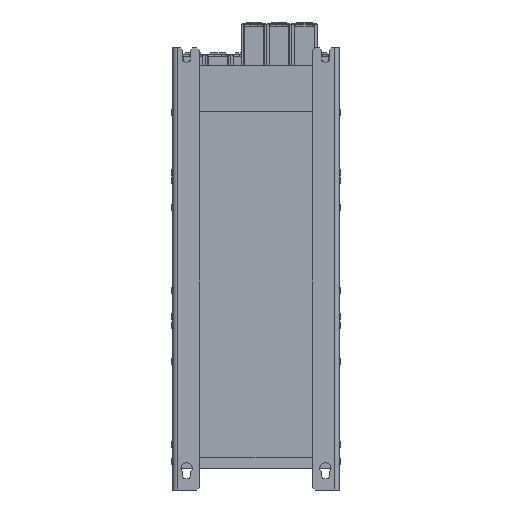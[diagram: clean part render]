
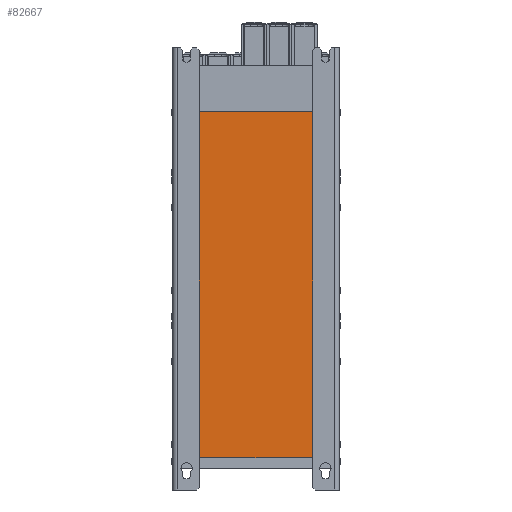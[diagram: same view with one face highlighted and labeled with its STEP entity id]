
A CAD part, front view. The second image highlights one B-rep face of the part: STEP entity #82667.
In plain terms, the highlighted planar face has unit normal (0, -1, 0).
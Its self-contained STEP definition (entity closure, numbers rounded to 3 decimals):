
#236 = ORIENTED_EDGE ( 'NONE', *, *, #4326, .T. ) ;
#2212 = DIRECTION ( 'NONE',  ( 0., 0., 1. ) ) ;
#2869 = CARTESIAN_POINT ( 'NONE',  ( -144., -125., 400. ) ) ;
#4256 = CARTESIAN_POINT ( 'NONE',  ( -159.4, -125., 500. ) ) ;
#4301 = CARTESIAN_POINT ( 'NONE',  ( -153., -125., 400. ) ) ;
#4326 = EDGE_CURVE ( 'NONE', #80026, #60872, #30798, .T. ) ;
#4953 = CARTESIAN_POINT ( 'NONE',  ( 153., -125., -400. ) ) ;
#5246 = DIRECTION ( 'NONE',  ( 1., 0., 0. ) ) ;
#5314 = EDGE_CURVE ( 'NONE', #88893, #10012, #16703, .T. ) ;
#9195 = VECTOR ( 'NONE', #40357, 1000. ) ;
#9513 = LINE ( 'NONE', #80842, #35123 ) ;
#10012 = VERTEX_POINT ( 'NONE', #27607 ) ;
#11465 = LINE ( 'NONE', #85516, #37231 ) ;
#13612 = CARTESIAN_POINT ( 'NONE',  ( 156., -125., 400. ) ) ;
#14281 = VECTOR ( 'NONE', #64913, 1000. ) ;
#16703 = LINE ( 'NONE', #74659, #70073 ) ;
#17036 = CARTESIAN_POINT ( 'NONE',  ( -156., -125., 403.5 ) ) ;
#18573 = PLANE ( 'NONE',  #34928 ) ;
#19757 = VECTOR ( 'NONE', #31738, 1000. ) ;
#22690 = LINE ( 'NONE', #67308, #83721 ) ;
#25175 = FACE_OUTER_BOUND ( 'NONE', #60087, .T. ) ;
#26064 = DIRECTION ( 'NONE',  ( 0., 0., -1. ) ) ;
#27044 = EDGE_CURVE ( 'NONE', #10012, #27811, #33717, .T. ) ;
#27435 = ORIENTED_EDGE ( 'NONE', *, *, #54704, .T. ) ;
#27607 = CARTESIAN_POINT ( 'NONE',  ( 155.9, -125., 500. ) ) ;
#27729 = DIRECTION ( 'NONE',  ( 0., 0., -1. ) ) ;
#27811 = VERTEX_POINT ( 'NONE', #31285 ) ;
#28702 = CARTESIAN_POINT ( 'NONE',  ( -156., -125., 403.5 ) ) ;
#29099 = VERTEX_POINT ( 'NONE', #4301 ) ;
#30081 = EDGE_CURVE ( 'NONE', #81187, #41266, #69349, .T. ) ;
#30798 = LINE ( 'NONE', #17036, #19757 ) ;
#30887 = CARTESIAN_POINT ( 'NONE',  ( 155.9, -125., 403.5 ) ) ;
#31285 = CARTESIAN_POINT ( 'NONE',  ( -155.9, -125., 500. ) ) ;
#31496 = VECTOR ( 'NONE', #2212, 1000. ) ;
#31738 = DIRECTION ( 'NONE',  ( 0., 0., -1. ) ) ;
#31864 = DIRECTION ( 'NONE',  ( 0., 1., 0. ) ) ;
#31985 = ORIENTED_EDGE ( 'NONE', *, *, #37303, .T. ) ;
#33070 = VECTOR ( 'NONE', #26064, 1000. ) ;
#33717 = LINE ( 'NONE', #4256, #9195 ) ;
#34928 = AXIS2_PLACEMENT_3D ( 'NONE', #2869, #31864, #53215 ) ;
#35123 = VECTOR ( 'NONE', #46109, 1000. ) ;
#36120 = ORIENTED_EDGE ( 'NONE', *, *, #58308, .T. ) ;
#37231 = VECTOR ( 'NONE', #5246, 1000. ) ;
#37303 = EDGE_CURVE ( 'NONE', #53022, #77550, #89125, .T. ) ;
#38782 = CARTESIAN_POINT ( 'NONE',  ( 156., -125., 403.5 ) ) ;
#38791 = DIRECTION ( 'NONE',  ( -1., 0., 0. ) ) ;
#40357 = DIRECTION ( 'NONE',  ( -1., 0., 0. ) ) ;
#40770 = CARTESIAN_POINT ( 'NONE',  ( 153., -125., 400. ) ) ;
#41266 = VERTEX_POINT ( 'NONE', #89848 ) ;
#41329 = CARTESIAN_POINT ( 'NONE',  ( -203.788, -125., -185. ) ) ;
#41470 = EDGE_CURVE ( 'NONE', #58304, #53022, #11465, .T. ) ;
#41767 = CARTESIAN_POINT ( 'NONE',  ( 156., -125., 400. ) ) ;
#46109 = DIRECTION ( 'NONE',  ( -1., 0., 0. ) ) ;
#47543 = VECTOR ( 'NONE', #27729, 1000. ) ;
#50814 = VECTOR ( 'NONE', #92351, 1000. ) ;
#51562 = CARTESIAN_POINT ( 'NONE',  ( 156., -125., 403.5 ) ) ;
#53022 = VERTEX_POINT ( 'NONE', #41767 ) ;
#53215 = DIRECTION ( 'NONE',  ( 0., 0., 1. ) ) ;
#54704 = EDGE_CURVE ( 'NONE', #29099, #81187, #78101, .T. ) ;
#56777 = ORIENTED_EDGE ( 'NONE', *, *, #89336, .T. ) ;
#58304 = VERTEX_POINT ( 'NONE', #40770 ) ;
#58308 = EDGE_CURVE ( 'NONE', #27811, #77310, #61697, .T. ) ;
#58900 = ORIENTED_EDGE ( 'NONE', *, *, #83948, .T. ) ;
#60087 = EDGE_LOOP ( 'NONE', ( #27435, #61360, #56777, #77429, #31985, #61643, #88878, #77358, #36120, #58900, #236, #88068 ) ) ;
#60872 = VERTEX_POINT ( 'NONE', #80041 ) ;
#61360 = ORIENTED_EDGE ( 'NONE', *, *, #30081, .T. ) ;
#61643 = ORIENTED_EDGE ( 'NONE', *, *, #75016, .T. ) ;
#61697 = LINE ( 'NONE', #69260, #33070 ) ;
#62926 = LINE ( 'NONE', #4953, #50814 ) ;
#64913 = DIRECTION ( 'NONE',  ( 1., 0., 0. ) ) ;
#67308 = CARTESIAN_POINT ( 'NONE',  ( 156., -125., 403.5 ) ) ;
#67834 = CARTESIAN_POINT ( 'NONE',  ( -153., -125., -185. ) ) ;
#69260 = CARTESIAN_POINT ( 'NONE',  ( -155.9, -125., 500. ) ) ;
#69349 = LINE ( 'NONE', #41329, #75589 ) ;
#70073 = VECTOR ( 'NONE', #81294, 1000. ) ;
#74659 = CARTESIAN_POINT ( 'NONE',  ( 155.9, -125., 400. ) ) ;
#75016 = EDGE_CURVE ( 'NONE', #77550, #88893, #22690, .T. ) ;
#75589 = VECTOR ( 'NONE', #77472, 1000. ) ;
#77310 = VERTEX_POINT ( 'NONE', #84857 ) ;
#77339 = EDGE_CURVE ( 'NONE', #60872, #29099, #78703, .T. ) ;
#77358 = ORIENTED_EDGE ( 'NONE', *, *, #27044, .T. ) ;
#77429 = ORIENTED_EDGE ( 'NONE', *, *, #41470, .T. ) ;
#77472 = DIRECTION ( 'NONE',  ( 1., 0., 0. ) ) ;
#77550 = VERTEX_POINT ( 'NONE', #51562 ) ;
#78101 = LINE ( 'NONE', #92790, #47543 ) ;
#78703 = LINE ( 'NONE', #13612, #14281 ) ;
#80026 = VERTEX_POINT ( 'NONE', #28702 ) ;
#80041 = CARTESIAN_POINT ( 'NONE',  ( -156., -125., 400. ) ) ;
#80842 = CARTESIAN_POINT ( 'NONE',  ( 156., -125., 403.5 ) ) ;
#81187 = VERTEX_POINT ( 'NONE', #67834 ) ;
#81294 = DIRECTION ( 'NONE',  ( 0., 0., 1. ) ) ;
#82667 = ADVANCED_FACE ( 'NONE', ( #25175 ), #18573, .F. ) ;
#83721 = VECTOR ( 'NONE', #38791, 1000. ) ;
#83948 = EDGE_CURVE ( 'NONE', #77310, #80026, #9513, .T. ) ;
#84857 = CARTESIAN_POINT ( 'NONE',  ( -155.9, -125., 403.5 ) ) ;
#85516 = CARTESIAN_POINT ( 'NONE',  ( 156., -125., 400. ) ) ;
#88068 = ORIENTED_EDGE ( 'NONE', *, *, #77339, .T. ) ;
#88878 = ORIENTED_EDGE ( 'NONE', *, *, #5314, .T. ) ;
#88893 = VERTEX_POINT ( 'NONE', #30887 ) ;
#89125 = LINE ( 'NONE', #38782, #31496 ) ;
#89336 = EDGE_CURVE ( 'NONE', #41266, #58304, #62926, .T. ) ;
#89848 = CARTESIAN_POINT ( 'NONE',  ( 153., -125., -185. ) ) ;
#92351 = DIRECTION ( 'NONE',  ( 0., 0., 1. ) ) ;
#92790 = CARTESIAN_POINT ( 'NONE',  ( -153., -125., 400. ) ) ;
